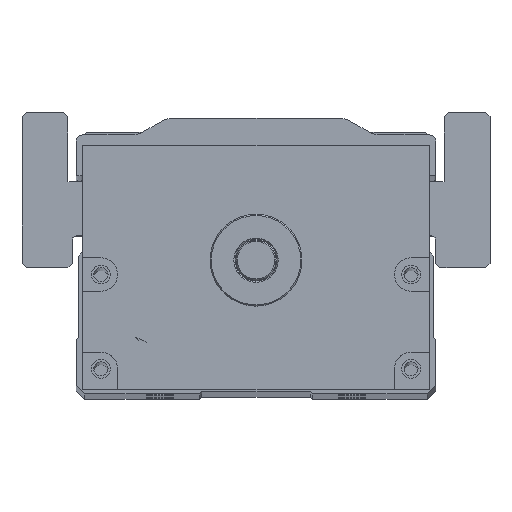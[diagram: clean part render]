
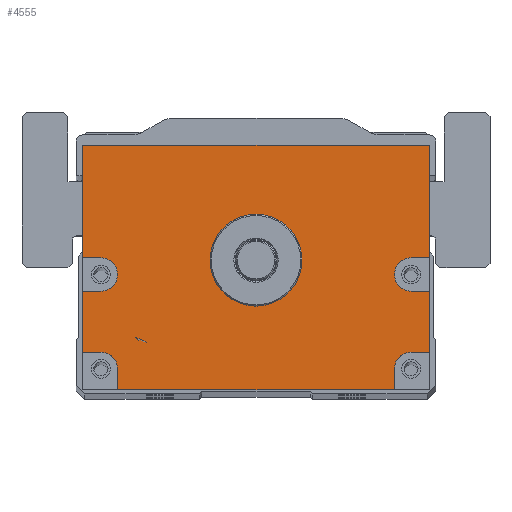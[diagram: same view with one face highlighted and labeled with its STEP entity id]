
A CAD part, top view. The second image highlights one B-rep face of the part: STEP entity #4555.
In plain terms, the highlighted planar face has unit normal (0, 0, 1).
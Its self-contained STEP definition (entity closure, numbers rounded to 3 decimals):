
#3885=FACE_BOUND('',#6256,.T.);
#3886=FACE_BOUND('',#6257,.T.);
#4555=ADVANCED_FACE('',(#3885,#3886),#5075,.T.);
#5075=PLANE('',#15576);
#6256=EDGE_LOOP('',(#10175,#10176,#10177,#10178,#10179,#10180,#10181,#10182,
#10183,#10184,#10185,#10186,#10187,#10188,#10189,#10190,#10191,#10192));
#6257=EDGE_LOOP('',(#10193));
#7169=LINE('',#22371,#7981);
#7171=LINE('',#22379,#7983);
#7172=LINE('',#22382,#7984);
#7173=LINE('',#22384,#7985);
#7174=LINE('',#22388,#7986);
#7175=LINE('',#22390,#7987);
#7176=LINE('',#22391,#7988);
#7177=LINE('',#22393,#7989);
#7178=LINE('',#22397,#7990);
#7179=LINE('',#22399,#7991);
#7180=LINE('',#22401,#7992);
#7181=LINE('',#22405,#7993);
#7182=LINE('',#22407,#7994);
#7183=LINE('',#22409,#7995);
#7981=VECTOR('',#17859,1.);
#7983=VECTOR('',#17867,1.);
#7984=VECTOR('',#17868,1.);
#7985=VECTOR('',#17869,1.);
#7986=VECTOR('',#17872,1.);
#7987=VECTOR('',#17873,1.);
#7988=VECTOR('',#17874,1.);
#7989=VECTOR('',#17875,1.);
#7990=VECTOR('',#17878,1.);
#7991=VECTOR('',#17879,1.);
#7992=VECTOR('',#17880,1.);
#7993=VECTOR('',#17883,1.);
#7994=VECTOR('',#17884,1.);
#7995=VECTOR('',#17885,1.);
#10175=ORIENTED_EDGE('',*,*,#13710,.F.);
#10176=ORIENTED_EDGE('',*,*,#13711,.T.);
#10177=ORIENTED_EDGE('',*,*,#13712,.F.);
#10178=ORIENTED_EDGE('',*,*,#13713,.F.);
#10179=ORIENTED_EDGE('',*,*,#13714,.F.);
#10180=ORIENTED_EDGE('',*,*,#13715,.T.);
#10181=ORIENTED_EDGE('',*,*,#13706,.T.);
#10182=ORIENTED_EDGE('',*,*,#13716,.T.);
#10183=ORIENTED_EDGE('',*,*,#13717,.F.);
#10184=ORIENTED_EDGE('',*,*,#13718,.F.);
#10185=ORIENTED_EDGE('',*,*,#13719,.F.);
#10186=ORIENTED_EDGE('',*,*,#13720,.T.);
#10187=ORIENTED_EDGE('',*,*,#13721,.F.);
#10188=ORIENTED_EDGE('',*,*,#13722,.F.);
#10189=ORIENTED_EDGE('',*,*,#13723,.F.);
#10190=ORIENTED_EDGE('',*,*,#13724,.T.);
#10191=ORIENTED_EDGE('',*,*,#13725,.F.);
#10192=ORIENTED_EDGE('',*,*,#13726,.F.);
#10193=ORIENTED_EDGE('',*,*,#13692,.T.);
#12258=VERTEX_POINT('',#22342);
#12271=VERTEX_POINT('',#22370);
#12272=VERTEX_POINT('',#22372);
#12275=VERTEX_POINT('',#22380);
#12276=VERTEX_POINT('',#22381);
#12277=VERTEX_POINT('',#22383);
#12278=VERTEX_POINT('',#22385);
#12279=VERTEX_POINT('',#22387);
#12280=VERTEX_POINT('',#22389);
#12281=VERTEX_POINT('',#22392);
#12282=VERTEX_POINT('',#22394);
#12283=VERTEX_POINT('',#22396);
#12284=VERTEX_POINT('',#22398);
#12285=VERTEX_POINT('',#22400);
#12286=VERTEX_POINT('',#22402);
#12287=VERTEX_POINT('',#22404);
#12288=VERTEX_POINT('',#22406);
#12289=VERTEX_POINT('',#22408);
#12290=VERTEX_POINT('',#22410);
#13692=EDGE_CURVE('',#12258,#12258,#14681,.T.);
#13706=EDGE_CURVE('',#12272,#12271,#7169,.T.);
#13710=EDGE_CURVE('',#12275,#12276,#7171,.T.);
#13711=EDGE_CURVE('',#12275,#12277,#7172,.T.);
#13712=EDGE_CURVE('',#12278,#12277,#7173,.T.);
#13713=EDGE_CURVE('',#12279,#12278,#14692,.T.);
#13714=EDGE_CURVE('',#12280,#12279,#7174,.T.);
#13715=EDGE_CURVE('',#12280,#12272,#7175,.T.);
#13716=EDGE_CURVE('',#12271,#12281,#7176,.T.);
#13717=EDGE_CURVE('',#12282,#12281,#7177,.T.);
#13718=EDGE_CURVE('',#12283,#12282,#14693,.T.);
#13719=EDGE_CURVE('',#12284,#12283,#7178,.T.);
#13720=EDGE_CURVE('',#12284,#12285,#7179,.T.);
#13721=EDGE_CURVE('',#12286,#12285,#7180,.T.);
#13722=EDGE_CURVE('',#12287,#12286,#14694,.T.);
#13723=EDGE_CURVE('',#12288,#12287,#7181,.T.);
#13724=EDGE_CURVE('',#12288,#12289,#7182,.T.);
#13725=EDGE_CURVE('',#12290,#12289,#7183,.T.);
#13726=EDGE_CURVE('',#12276,#12290,#14695,.T.);
#14681=CIRCLE('',#15558,11.);
#14692=CIRCLE('',#15572,4.);
#14693=CIRCLE('',#15573,4.);
#14694=CIRCLE('',#15574,4.);
#14695=CIRCLE('',#15575,4.);
#15558=AXIS2_PLACEMENT_3D('',#22341,#17832,#17833);
#15572=AXIS2_PLACEMENT_3D('',#22386,#17870,#17871);
#15573=AXIS2_PLACEMENT_3D('',#22395,#17876,#17877);
#15574=AXIS2_PLACEMENT_3D('',#22403,#17881,#17882);
#15575=AXIS2_PLACEMENT_3D('',#22411,#17886,#17887);
#15576=AXIS2_PLACEMENT_3D('',#22412,#17888,#17889);
#17832=DIRECTION('',(0.,0.,-1.));
#17833=DIRECTION('',(1.,0.,0.));
#17859=DIRECTION('',(-1.,0.,0.));
#17867=DIRECTION('',(-1.,0.,0.));
#17868=DIRECTION('',(0.,1.,0.));
#17869=DIRECTION('',(1.,0.,0.));
#17870=DIRECTION('',(0.,0.,1.));
#17871=DIRECTION('',(1.,0.,0.));
#17872=DIRECTION('',(-1.,0.,0.));
#17873=DIRECTION('',(0.,1.,0.));
#17874=DIRECTION('',(0.,-1.,0.));
#17875=DIRECTION('',(-1.,0.,0.));
#17876=DIRECTION('',(0.,0.,1.));
#17877=DIRECTION('',(1.,0.,0.));
#17878=DIRECTION('',(1.,0.,0.));
#17879=DIRECTION('',(0.,-1.,0.));
#17880=DIRECTION('',(-1.,0.,0.));
#17881=DIRECTION('',(0.,0.,1.));
#17882=DIRECTION('',(1.,0.,0.));
#17883=DIRECTION('',(0.,1.,0.));
#17884=DIRECTION('',(1.,0.,0.));
#17885=DIRECTION('',(0.,-1.,0.));
#17886=DIRECTION('',(0.,0.,1.));
#17887=DIRECTION('',(1.,0.,0.));
#17888=DIRECTION('',(0.,0.,1.));
#17889=DIRECTION('',(1.,0.,0.));
#22341=CARTESIAN_POINT('',(150.,0.,582.5));
#22342=CARTESIAN_POINT('',(161.,0.,582.5));
#22370=CARTESIAN_POINT('',(108.5,27.5,582.5));
#22371=CARTESIAN_POINT('',(191.5,27.5,582.5));
#22372=CARTESIAN_POINT('',(191.5,27.5,582.5));
#22379=CARTESIAN_POINT('',(191.5,-22.,582.5));
#22380=CARTESIAN_POINT('',(191.5,-22.,582.5));
#22381=CARTESIAN_POINT('',(187.115,-22.,582.5));
#22382=CARTESIAN_POINT('',(191.5,-31.,582.5));
#22383=CARTESIAN_POINT('',(191.5,-7.431,582.5));
#22384=CARTESIAN_POINT('',(191.5,-7.431,582.5));
#22385=CARTESIAN_POINT('',(187.115,-7.431,582.5));
#22386=CARTESIAN_POINT('',(187.115,-3.431,582.5));
#22387=CARTESIAN_POINT('',(187.115,0.569,582.5));
#22388=CARTESIAN_POINT('',(191.5,0.569,582.5));
#22389=CARTESIAN_POINT('',(191.5,0.569,582.5));
#22390=CARTESIAN_POINT('',(191.5,-31.,582.5));
#22391=CARTESIAN_POINT('',(108.5,27.5,582.5));
#22392=CARTESIAN_POINT('',(108.5,0.569,582.5));
#22393=CARTESIAN_POINT('',(191.5,0.569,582.5));
#22394=CARTESIAN_POINT('',(112.885,0.569,582.5));
#22395=CARTESIAN_POINT('',(112.885,-3.431,582.5));
#22396=CARTESIAN_POINT('',(112.885,-7.431,582.5));
#22397=CARTESIAN_POINT('',(191.5,-7.431,582.5));
#22398=CARTESIAN_POINT('',(108.5,-7.431,582.5));
#22399=CARTESIAN_POINT('',(108.5,27.5,582.5));
#22400=CARTESIAN_POINT('',(108.5,-22.,582.5));
#22401=CARTESIAN_POINT('',(191.5,-22.,582.5));
#22402=CARTESIAN_POINT('',(112.885,-22.,582.5));
#22403=CARTESIAN_POINT('',(112.885,-26.,582.5));
#22404=CARTESIAN_POINT('',(116.885,-26.,582.5));
#22405=CARTESIAN_POINT('',(116.885,-31.,582.5));
#22406=CARTESIAN_POINT('',(116.885,-31.,582.5));
#22407=CARTESIAN_POINT('',(108.5,-31.,582.5));
#22408=CARTESIAN_POINT('',(183.115,-31.,582.5));
#22409=CARTESIAN_POINT('',(183.115,-31.,582.5));
#22410=CARTESIAN_POINT('',(183.115,-26.,582.5));
#22411=CARTESIAN_POINT('',(187.115,-26.,582.5));
#22412=CARTESIAN_POINT('',(191.5,-31.,582.5));
